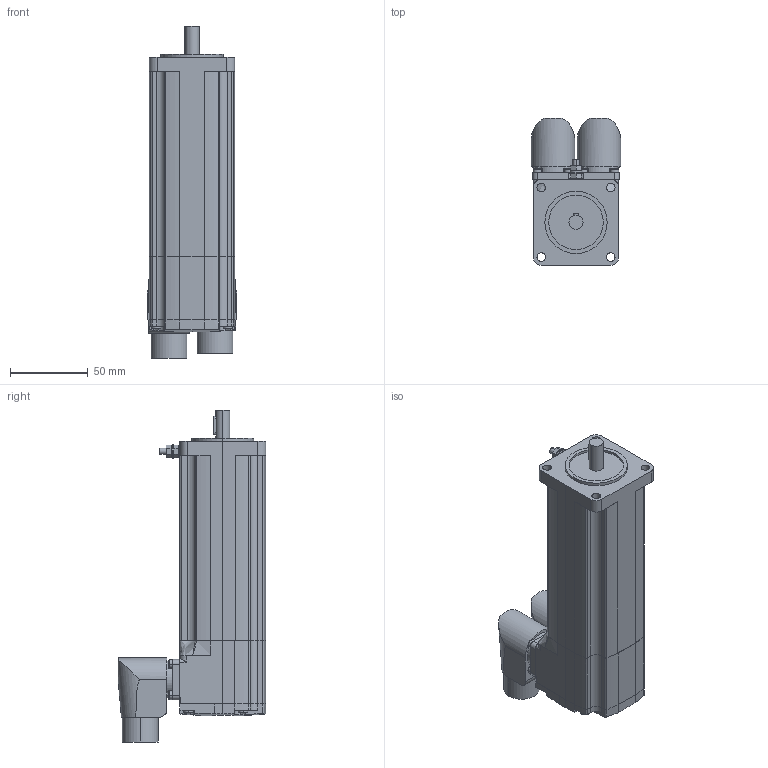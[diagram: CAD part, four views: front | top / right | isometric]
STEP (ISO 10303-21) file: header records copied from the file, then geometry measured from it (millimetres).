
FILE_DESCRIPTION (( 'STEP AP214' ), '1' );
FILE_NAME ('SH30553x1xA2100.STEP', '2013-11-29T07:32:57', ( 'Windows User' ), ( 'Schneider-Electric' ), 'SwSTEP 2.0', 'SolidWorks 2010', '' );
FILE_SCHEMA (( 'AUTOMOTIVE_DESIGN' ));
Length unit declared in the file: millimetre
Products named in the file (7): 1-100011007_K-TOPFGEHÄUSE SH3-055X_000_Topfgehäuse SH30553 mit Passfeder; 1-100011008_K-LAGERSCHILD SH3-055X-A UND F_000_Lagerschild SH3-055x-A; 1-100011009_K-DECKEL SH3-055X_000_Deckel SH3-055x; 1-100011011_K-ERDUNGSBOLZEN M4_000; K-ENCODER-CONINVERS-ABGEW_ENCODER-CONINVERS-ABGEWINKELT_000_Single- MultiTurn; K-POWER-CONINVERS-ABGEWIN_POWER-CONINVERS-ABGEWINKELT_000_ohne Bremse; SH30553x1xA2100
Assembly tree (6 placements, depth 2):
  SH30553x1xA2100
    1-100011007_K-TOPFGEHÄUSE SH3-055X_000_Topfgehäuse SH30553 mit Passfeder
    1-100011011_K-ERDUNGSBOLZEN M4_000
    1-100011009_K-DECKEL SH3-055X_000_Deckel SH3-055x
    K-ENCODER-CONINVERS-ABGEW_ENCODER-CONINVERS-ABGEWINKELT_000_Single- MultiTurn
    K-POWER-CONINVERS-ABGEWIN_POWER-CONINVERS-ABGEWINKELT_000_ohne Bremse
    1-100011008_K-LAGERSCHILD SH3-055X-A UND F_000_Lagerschild SH3-055x-A
Bounding box: 57.5 x 94.5 x 212.95 mm (x, y, z)
Volume: 542108.7 mm3; surface area: 71369.8 mm2
Topology: 6 solids, 6 shells, 392 faces, 987 edges, 653 vertices
Faces by surface type: cylinder 186, plane 169, torus 16, bspline 12, cone 5, sphere 4
Entity records: 13549 total; most frequent: CARTESIAN_POINT 3567, DIRECTION 2124, ORIENTED_EDGE 1970, EDGE_CURVE 985, AXIS2_PLACEMENT_3D 830, VERTEX_POINT 653, LINE 464, VECTOR 464
